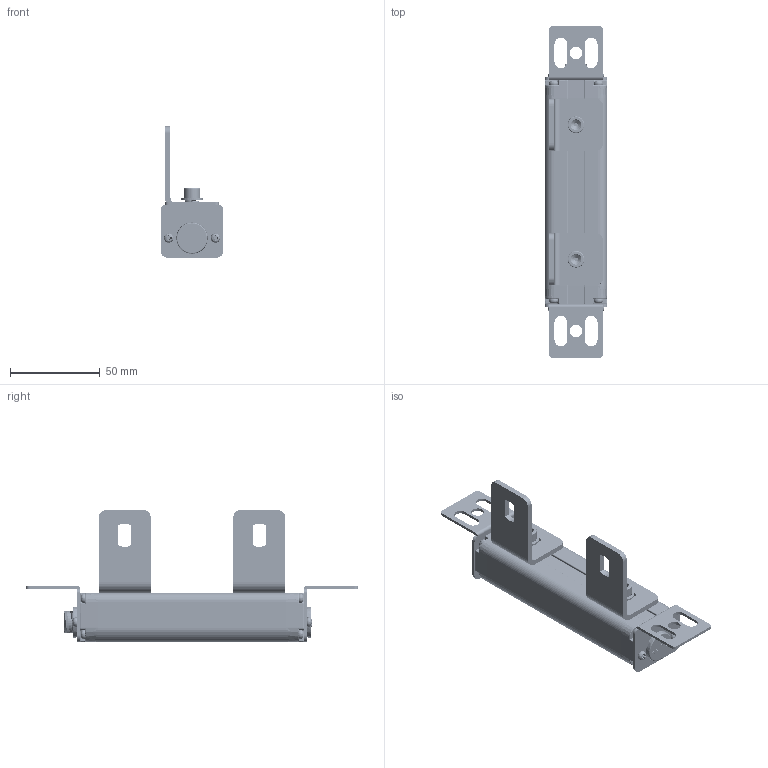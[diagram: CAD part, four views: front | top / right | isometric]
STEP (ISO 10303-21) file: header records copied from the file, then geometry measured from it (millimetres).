
FILE_DESCRIPTION((''),'2;1');
FILE_NAME('ELG-0440_ASM','2021-08-07T10:18:36',('18720616900'),(''),'CREO PARAMETRIC BY PTC INC, 2019010','CREO PARAMETRIC BY PTC INC, 2019010','');
FILE_SCHEMA(('CONFIG_CONTROL_DESIGN'));
Products named in the file (18): ELG--00; ELG--000; ELG000; M3--0001; 3000; 3--0001; ELG_30001_ASM; ST-3-12; L20001; M3-6; L10001; M6-1--00; M6-1-00; M6-8--0001; 00; L1--0001_ASM; ELG-0440_ASM
Assembly tree (34 placements, depth 3):
  ELG-0440_ASM
    ELG--00
    ELG--000
    ELG000
    ELG000
    M3--0001  x4
    ELG_30001_ASM
      3000
      3--0001  x3
    ST-3-12  x8
    L20001  x2
    M3-6  x4
    L1--0001_ASM  x2
      L10001
      M6-1--00
      M6-1-00
      M6-8--0001
      00
Bounding box: 35 x 185 x 73.4 mm (x, y, z)
Volume: 125154.8 mm3; surface area: 53348 mm2
Topology: 36 solids, 36 shells, 3404 faces, 9468 edges, 6167 vertices
Faces by surface type: cylinder 1928, plane 616, bspline 398, cone 353, torus 99, sphere 10
Entity records: 68753 total; most frequent: CARTESIAN_POINT 35026, ORIENTED_EDGE 7326, DIRECTION 6679, EDGE_CURVE 3663, AXIS2_PLACEMENT_3D 2530, VERTEX_POINT 2387, VECTOR 1619, LINE 1619
